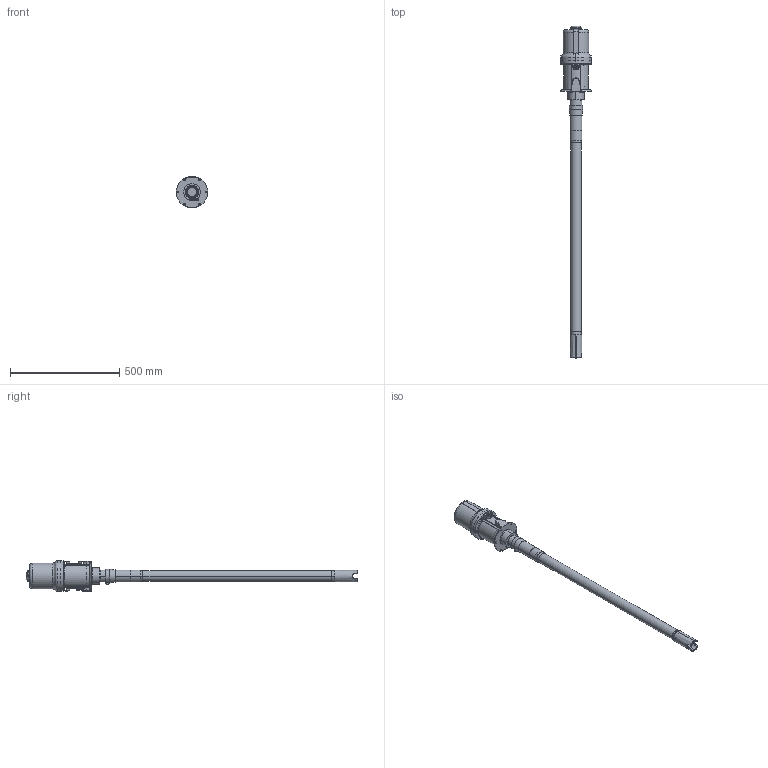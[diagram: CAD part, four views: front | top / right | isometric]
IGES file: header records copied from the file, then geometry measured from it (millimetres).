
Start section:  PTC IGES file: 222087-en-zag.igs
Global section: file name: 222087-en-zag.igs; native system: Creo Parametric by PTC Inc.; preprocessor: 2023424; author: qtmwp1; organization: Unknown; date: 20240322.095617; units: inch
Bounding box: 143.82 x 1520.18 x 141.6 mm (x, y, z)
Surface area: 390916.9 mm2 (no closed solid volume)
Topology: 0 solids, 0 shells, 236 faces, 1243 edges, 1243 vertices
Faces by surface type: revolution 159, bspline 77
